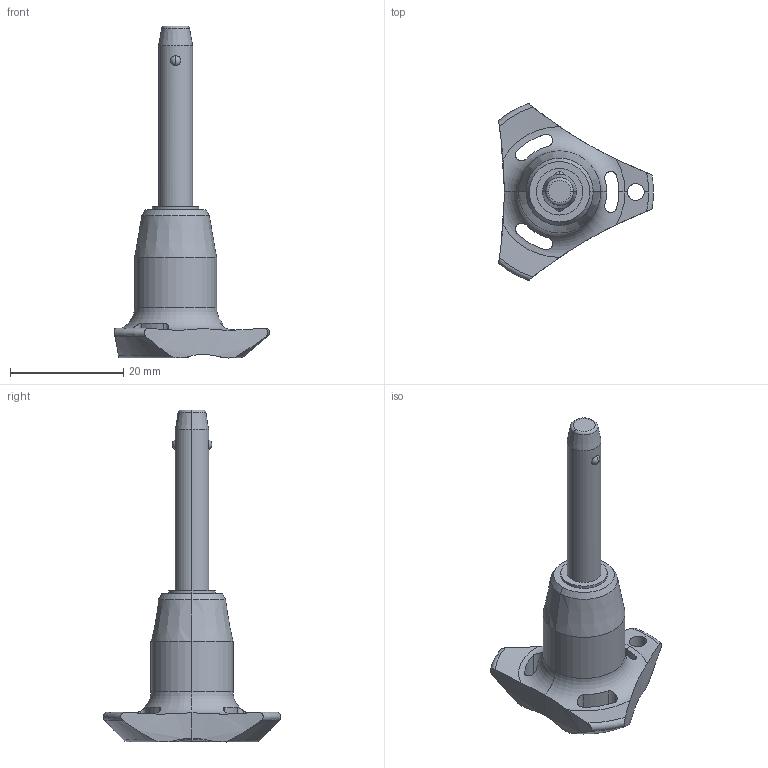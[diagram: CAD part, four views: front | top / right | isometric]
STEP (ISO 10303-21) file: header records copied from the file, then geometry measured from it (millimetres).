
FILE_DESCRIPTION (( 'STEP AP203' ), '1' );
FILE_NAME ('QR1714.M06-025-S.step', '2025-11-12T09:58:43', ( '' ), ( '' ), 'SwSTEP 2.0', 'SolidWorks 2019', '' );
FILE_SCHEMA (( 'CONFIG_CONTROL_DESIGN' ));
Length unit declared in the file: millimetre
Products named in the file (1): QR1714.M06-025-S
Bounding box: 27.4 x 31.31 x 58.7 mm (x, y, z)
Volume: 5672.9 mm3; surface area: 3024 mm2
Topology: 1 solids, 1 shells, 66 faces, 181 edges, 115 vertices
Faces by surface type: cylinder 30, cone 14, torus 12, sphere 6, plane 4
Entity records: 2709 total; most frequent: CARTESIAN_POINT 997, ORIENTED_EDGE 362, DIRECTION 332, EDGE_CURVE 181, AXIS2_PLACEMENT_3D 148, VERTEX_POINT 115, CIRCLE 81, EDGE_LOOP 72
